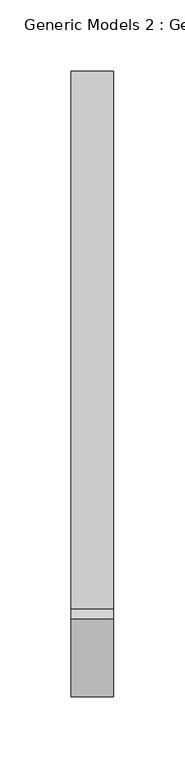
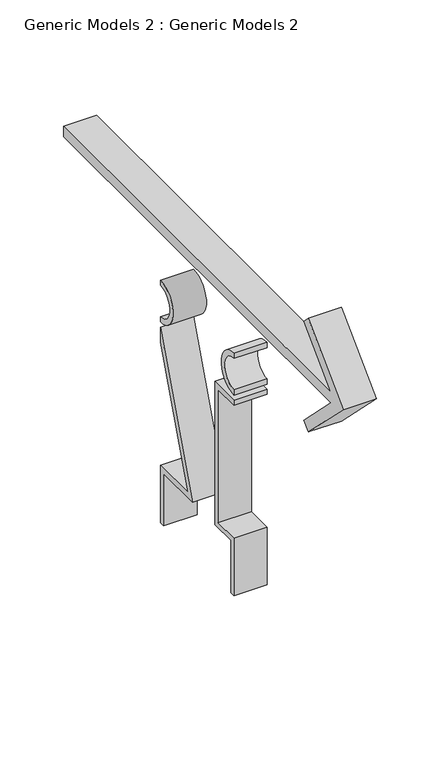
"""IFC4 building model written with IfcOpenShell, lengths in millimetres: proxy geometry, Generic Models 2 : Generic Models 2."""

from ifc_helpers import new_model, si_unit, point, frame, frame_2d, origin, place, context, project, spatial, polyline, circle_curve, trimmed, segment, composite_curve, outline, extrude, source, transform, mapped, element, save


def generic_models_2_generic_models_2_8f71c89f(model_context):
    return source(origin(), model_context, "Body", "SweptSolid", [
        extrude(outline(polyline([(4178.8560714, 1951.3031911), (4598.8560714, 1951.3031911), (4598.8560714, 1941.3031911), (4178.8560714, 1941.3031911), (4221.2824783, 1898.8767842), (4214.2114105, 1891.8057164), (4159.7139358, 1946.3031911), (4214.2114105, 2000.8006658), (4221.2824783, 1993.729598), (4178.8560714, 1951.3031911)])), frame((25805.1576528, 0.0, 0.0), z_axis=(1.0, 0.0, 0.0), x_axis=(0.0, 1.0, 0.0)), (0.0, 0.0, 1.0), 30.0),
        extrude(outline(polyline([(4396.6365363, 1714.0156881), (4446.6365363, 1851.3895591), (4446.6365363, 1836.7705371), (4403.7772764, 1719.0156881), (4446.6365363, 1719.0156881), (4446.6365363, 1664.0156881), (4441.6365363, 1664.0156881), (4441.6365363, 1714.0156881), (4396.6365363, 1714.0156881)])), frame((25805.1576528, 0.0, 0.0), z_axis=(1.0, 0.0, 0.0), x_axis=(0.0, 1.0, 0.0)), (0.0, 0.0, 1.0), 30.0),
        extrude(outline(polyline([(4331.0756064, 1851.3895591), (4361.0756064, 1851.3895591), (4361.0756064, 1714.0156881), (4336.0756064, 1714.0156881), (4336.0756064, 1664.0156881), (4331.0756064, 1664.0156881), (4331.0756064, 1719.0156881), (4356.0756064, 1719.0156881), (4356.0756064, 1846.3895591), (4331.0756064, 1846.3895591), (4331.0756064, 1851.3895591)])), frame((25805.1576528, 0.0, 0.0), z_axis=(1.0, 0.0, 0.0), x_axis=(0.0, 1.0, 0.0)), (0.0, 0.0, 1.0), 30.0),
        extrude(outline(composite_curve([segment(polyline([(4331.0756064, 1856.3463751), (4331.0756064, 1861.3463751)]), True, "CONTINUOUS"), segment(trimmed(circle_curve(frame_2d((4331.0756064, 1876.3463751)), 15.0), [point((4331.0756064, 1861.3463751))], [point((4331.0756064, 1891.3463751))], True, "CARTESIAN"), True, "CONTINUOUS"), segment(polyline([(4331.0756064, 1891.3463751), (4331.0756064, 1896.3463751)]), True, "CONTINUOUS"), segment(trimmed(circle_curve(frame_2d((4331.0756064, 1876.3463751)), 20.0), [point((4331.0756064, 1896.3463751))], [point((4331.0756064, 1856.3463751))], False, "CARTESIAN"), True, "CONTINUOUS")], self_intersect=False)), frame((25805.1576528, 0.0, 0.0), z_axis=(1.0, 0.0, 0.0), x_axis=(0.0, 1.0, 0.0)), (0.0, 0.0, 1.0), 30.0),
        extrude(outline(composite_curve([segment(polyline([(4446.6365363, 1896.3463751), (4446.6365363, 1891.3463751)]), True, "CONTINUOUS"), segment(trimmed(circle_curve(frame_2d((4446.6365363, 1876.3463751)), 15.0), [point((4446.6365363, 1891.3463751))], [point((4446.6365363, 1861.3463751))], True, "CARTESIAN"), True, "CONTINUOUS"), segment(polyline([(4446.6365363, 1861.3463751), (4446.6365363, 1856.3463751)]), True, "CONTINUOUS"), segment(trimmed(circle_curve(frame_2d((4446.6365363, 1876.3463751)), 20.0), [point((4446.6365363, 1856.3463751))], [point((4446.6365363, 1896.3463751))], False, "CARTESIAN"), True, "CONTINUOUS")], self_intersect=False)), frame((25805.1576528, 0.0, 0.0), z_axis=(1.0, 0.0, 0.0), x_axis=(0.0, 1.0, 0.0)), (0.0, 0.0, 1.0), 30.0),
    ])


if __name__ == "__main__":
    model = new_model("IFC4")
    model_context = context("Model", 3, world=origin())
    ifc_project = project(units=[si_unit("LENGTHUNIT", "METRE", prefix="MILLI")], contexts=[model_context])
    site = spatial("IfcSite", under=ifc_project)
    building = spatial("IfcBuilding", under=site)
    placement = place(None, origin())
    generic_models_2_generic_models_2_shape = generic_models_2_generic_models_2_8f71c89f(model_context)
    element("IfcBuildingElementProxy", 1, Name="Generic Models 2 : Generic Models 2", ObjectType="Generic Models 2 : Generic Models 2", at=placement, inside=building, context=model_context, shape_type="MappedRepresentation", body=[
        mapped(generic_models_2_generic_models_2_shape, transform((0.0, 0.0, 0.0), x_axis=(1.0, 0.0, 0.0), y_axis=(0.0, 1.0, 0.0), z_axis=(0.0, 0.0, 1.0))),
    ])
    save(model, "model.ifc")
